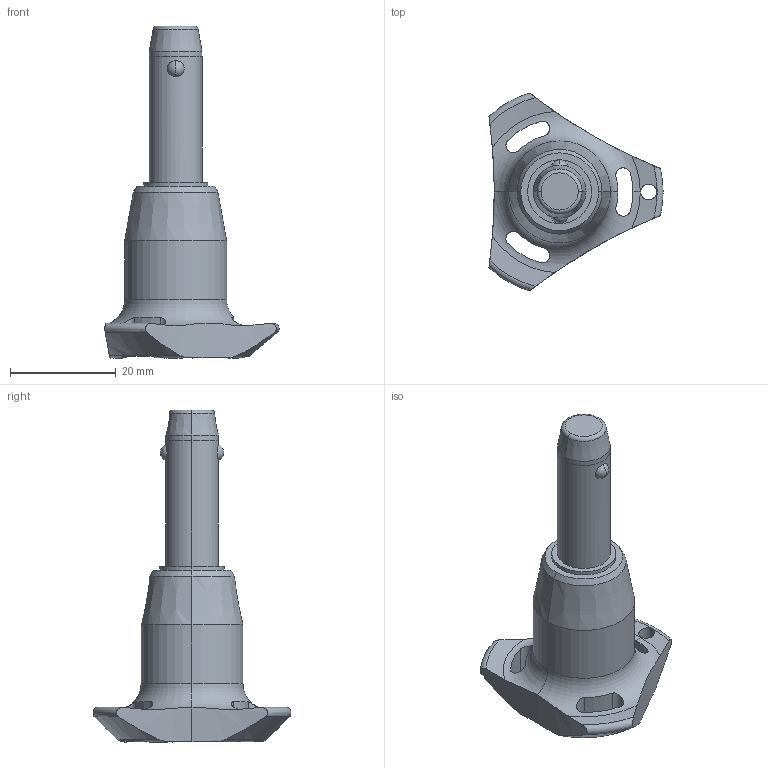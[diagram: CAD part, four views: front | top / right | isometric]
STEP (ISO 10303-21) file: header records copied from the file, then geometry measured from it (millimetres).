
FILE_DESCRIPTION (( 'STEP AP203' ), '1' );
FILE_NAME ('QR1736.M10-020-T.step', '2025-11-13T11:56:47', ( '' ), ( '' ), 'SwSTEP 2.0', 'SolidWorks 2019', '' );
FILE_SCHEMA (( 'CONFIG_CONTROL_DESIGN' ));
Length unit declared in the file: millimetre
Products named in the file (1): QR1736.M10-020-T
Bounding box: 33 x 37.51 x 62.9 mm (x, y, z)
Volume: 12650.4 mm3; surface area: 4793 mm2
Topology: 1 solids, 1 shells, 68 faces, 180 edges, 113 vertices
Faces by surface type: cylinder 32, cone 14, torus 11, sphere 6, plane 5
Entity records: 2838 total; most frequent: CARTESIAN_POINT 1098, ORIENTED_EDGE 360, DIRECTION 347, EDGE_CURVE 180, AXIS2_PLACEMENT_3D 154, VERTEX_POINT 113, CIRCLE 85, EDGE_LOOP 75
